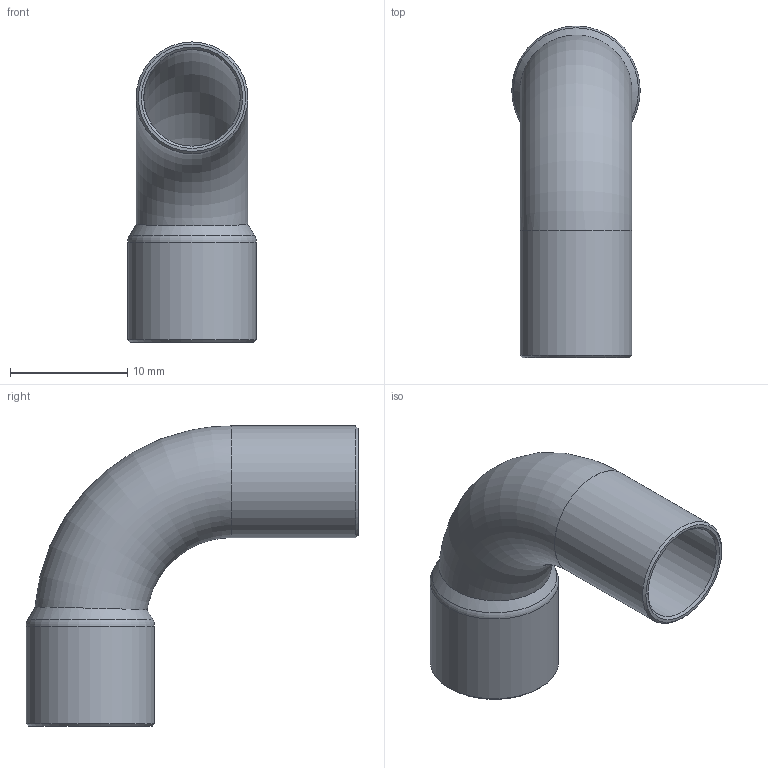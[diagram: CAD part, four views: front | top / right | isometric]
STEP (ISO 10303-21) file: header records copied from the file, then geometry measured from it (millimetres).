
FILE_DESCRIPTION((''),'2;1');
FILE_NAME('G:\SANHA-Ternat\Technik\Management\Bouwmaten + markeringen\z-maattekeningen 3D\29000s\29001A38_3d.stp','2017-07-26T09:42:23',('vdvijverd'),(''),'Autodesk Inventor 2009','Autodesk Inventor 2009','');
FILE_SCHEMA(('AUTOMOTIVE_DESIGN { 1 0 10303 214 1 1 1 1 }'));
Length unit declared in the file: millimetre
Products named in the file (1): 29001A38_3d
Bounding box: 10.95 x 28.27 x 25.56 mm (x, y, z)
Volume: 724.8 mm3; surface area: 2262.6 mm2
Topology: 1 solids, 1 shells, 18 faces, 34 edges, 20 vertices
Faces by surface type: cone 6, plane 4, cylinder 4, torus 3, bspline 1
Full cylindrical faces by diameter (mm): 8.225 x1, 9.525 x1, 9.645 x1, 10.945 x1
Entity records: 500 total; most frequent: CARTESIAN_POINT 171, DIRECTION 68, ORIENTED_EDGE 36, EDGE_LOOP 36, AXIS2_PLACEMENT_3D 34, VERTEX_POINT 18, EDGE_CURVE 18, FACE_OUTER_BOUND 18
